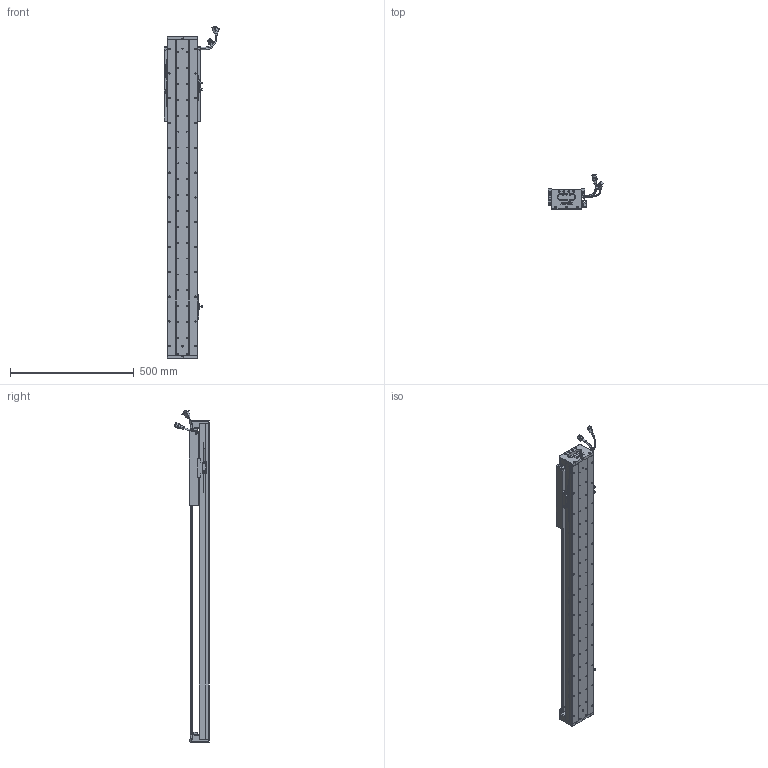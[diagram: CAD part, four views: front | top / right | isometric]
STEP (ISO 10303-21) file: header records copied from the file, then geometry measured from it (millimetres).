
FILE_DESCRIPTION (( 'STEP AP203' ), '1' );
FILE_NAME ('Z4-RY120D-1-L500-B-K.SLDASM_0900.step', '2021-05-17T06:06:47', ( '盈信电脑' ), ( '东莞市道滘镇水果街19号' ), 'SwSTEP 2.0', 'SolidWorks 2016', '' );
FILE_SCHEMA (( 'CONFIG_CONTROL_DESIGN' ));
Length unit declared in the file: millimetre
Products named in the file (37): LABEL-Part-1; RY100FB-遵嫖萇覜茼え; SCREW-M1.6-2; Z4-RY120-500-倰第菁釱_0900; SCREW-M1.7; SCALE; Z-RY120D詩湍狟揤裔; Z4-RY120-L500詩湍100mm遵_0900; 672嫖萇羲壽假蚾釱; SCREW-M1.7-1; 140蚥薯蝶輸; Z4-RY120铝滑块（21款）; HOLDER0; SCREW-M1.6-1; 覜茼ん672; LABEL; HARNESS-Part-1; COVER-Part-1; SCREW-M1.6-3; PBU_SHEET; Z4-RY120D-1-L500-B-K.SLDASM_0900; SHIELDPLATE; SCREW-M1.6; SEAL; SCALE-Part-1; PSLH080_PSLF2; Z-120詩湍傷裔啣; 140雄赽晤鎢ん堤盄; SCALE-Part-2; HARNESS; Z-RY120D詩湍奻揤裔; 080黍杅芛假蚾釱21遴; 榋妏寠巭燃_暯_M2_2; HARNESS-Part-2; 120-Z-臏賑輸盄裔(21遴); COVER; SEAL-Part-1
Assembly tree (43 placements, depth 4):
  Z4-RY120D-1-L500-B-K.SLDASM_0900
    Z4-RY120-500-倰第菁釱_0900
    覜茼ん672  x3
    672嫖萇羲壽假蚾釱  x2
    Z4-RY120铝滑块（21款）
    PSLH080_PSLF2
      SCALE
        SCALE-Part-1
        SCALE-Part-2
      HARNESS
        HARNESS-Part-1
        HARNESS-Part-2
      LABEL
        LABEL-Part-1
      COVER
        COVER-Part-1
      SEAL
        SEAL-Part-1
      榋妏寠巭燃_暯_M2_2
      SHIELDPLATE
      SCREW-M1.7
      SCREW-M1.7-1
      PBU_SHEET
      SCREW-M1.6
      SCREW-M1.6-1
      SCREW-M1.6-2
      SCREW-M1.6-3
      HOLDER0
    080黍杅芛假蚾釱21遴
    120-Z-臏賑輸盄裔(21遴)
    140雄赽晤鎢ん堤盄
    140蚥薯蝶輸  x2
    RY100FB-遵嫖萇覜茼え
    Z-120詩湍傷裔啣  x2
    Z-RY120D詩湍奻揤裔  x2
    Z-RY120D詩湍狟揤裔  x2
    Z4-RY120-L500詩湍100mm遵_0900
Bounding box: 222.88 x 140.94 x 1338.99 mm (x, y, z)
Volume: 3766360.4 mm3; surface area: 1238797.3 mm2
Topology: 38 solids, 38 shells, 2975 faces, 8128 edges, 5134 vertices
Faces by surface type: cylinder 1412, plane 1145, cone 296, torus 69, bspline 53
Entity records: 91739 total; most frequent: CARTESIAN_POINT 25346, ORIENTED_EDGE 13192, DIRECTION 12768, EDGE_CURVE 6596, AXIS2_PLACEMENT_3D 4688, VERTEX_POINT 4254, VECTOR 3392, LINE 3392
